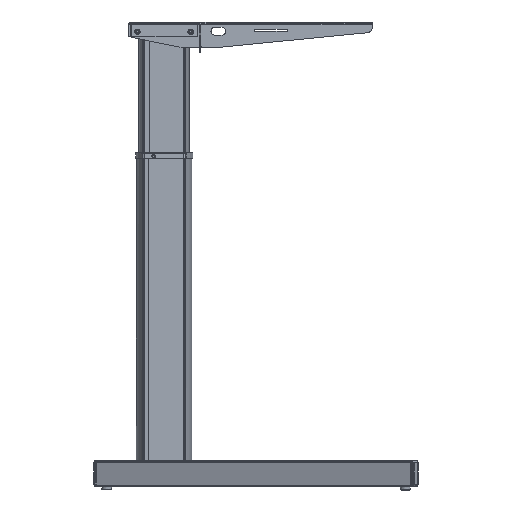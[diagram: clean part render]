
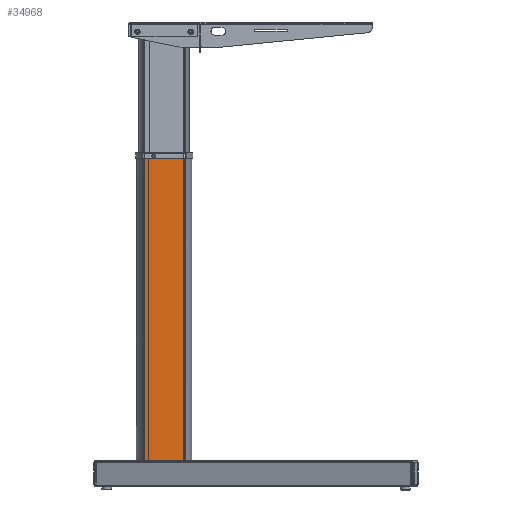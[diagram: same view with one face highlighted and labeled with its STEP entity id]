
A CAD part, left-side view. The second image highlights one B-rep face of the part: STEP entity #34968.
In plain terms, the highlighted planar face has unit normal (-1, 0, 0).
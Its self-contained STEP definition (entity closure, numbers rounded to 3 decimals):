
#86 = CARTESIAN_POINT ( 'NONE',  ( -70., 39., 0. ) ) ;
#1138 = LINE ( 'NONE', #13487, #41969 ) ;
#1219 = VERTEX_POINT ( 'NONE', #23875 ) ;
#1362 = CARTESIAN_POINT ( 'NONE',  ( -70., 12.4, 4.1 ) ) ;
#2304 = VECTOR ( 'NONE', #34688, 1000. ) ;
#3018 = DIRECTION ( 'NONE',  ( 0., -1., 0. ) ) ;
#3635 = CARTESIAN_POINT ( 'NONE',  ( -70., 20.312, 638. ) ) ;
#3741 = EDGE_CURVE ( 'NONE', #4993, #4108, #11593, .T. ) ;
#3822 = DIRECTION ( 'NONE',  ( 1., 0., 0. ) ) ;
#3863 = LINE ( 'NONE', #8696, #47137 ) ;
#4108 = VERTEX_POINT ( 'NONE', #46248 ) ;
#4154 = VECTOR ( 'NONE', #46967, 1000. ) ;
#4287 = VERTEX_POINT ( 'NONE', #46603 ) ;
#4993 = VERTEX_POINT ( 'NONE', #50741 ) ;
#5852 = VERTEX_POINT ( 'NONE', #17886 ) ;
#6161 = FACE_OUTER_BOUND ( 'NONE', #29778, .T. ) ;
#7282 = EDGE_CURVE ( 'NONE', #11539, #1219, #3863, .T. ) ;
#7371 = VECTOR ( 'NONE', #37389, 1000. ) ;
#7904 = CARTESIAN_POINT ( 'NONE',  ( -70., -12.4, 0. ) ) ;
#8289 = DIRECTION ( 'NONE',  ( 0., 0., -1. ) ) ;
#8696 = CARTESIAN_POINT ( 'NONE',  ( -70., -12.4, 4.1 ) ) ;
#10051 = ORIENTED_EDGE ( 'NONE', *, *, #40882, .F. ) ;
#10354 = CARTESIAN_POINT ( 'NONE',  ( -70., -38.327, 0. ) ) ;
#11126 = PLANE ( 'NONE',  #45023 ) ;
#11331 = LINE ( 'NONE', #48445, #45974 ) ;
#11539 = VERTEX_POINT ( 'NONE', #17972 ) ;
#11593 = LINE ( 'NONE', #23173, #4154 ) ;
#12669 = EDGE_CURVE ( 'NONE', #27997, #20962, #13638, .T. ) ;
#13487 = CARTESIAN_POINT ( 'NONE',  ( -70., 12.4, 644. ) ) ;
#13497 = ORIENTED_EDGE ( 'NONE', *, *, #29034, .T. ) ;
#13638 = LINE ( 'NONE', #41525, #35912 ) ;
#13829 = DIRECTION ( 'NONE',  ( 0., 0., -1. ) ) ;
#13959 = ORIENTED_EDGE ( 'NONE', *, *, #41662, .T. ) ;
#15025 = LINE ( 'NONE', #35030, #34822 ) ;
#15466 = CARTESIAN_POINT ( 'NONE',  ( -70., -39., 4.1 ) ) ;
#15692 = ORIENTED_EDGE ( 'NONE', *, *, #37110, .T. ) ;
#16073 = LINE ( 'NONE', #21520, #7371 ) ;
#16623 = LINE ( 'NONE', #31635, #25917 ) ;
#17003 = ORIENTED_EDGE ( 'NONE', *, *, #7282, .F. ) ;
#17886 = CARTESIAN_POINT ( 'NONE',  ( -70., 20.312, 634.25 ) ) ;
#17972 = CARTESIAN_POINT ( 'NONE',  ( -70., -27.6, 4.1 ) ) ;
#18520 = FACE_BOUND ( 'NONE', #50935, .T. ) ;
#19756 = ORIENTED_EDGE ( 'NONE', *, *, #32143, .T. ) ;
#20578 = ORIENTED_EDGE ( 'NONE', *, *, #21163, .F. ) ;
#20594 = LINE ( 'NONE', #34154, #32415 ) ;
#20962 = VERTEX_POINT ( 'NONE', #7904 ) ;
#21163 = EDGE_CURVE ( 'NONE', #4108, #41435, #36252, .T. ) ;
#21520 = CARTESIAN_POINT ( 'NONE',  ( -70., -12.4, 4.1 ) ) ;
#21673 = VERTEX_POINT ( 'NONE', #86 ) ;
#22681 = VECTOR ( 'NONE', #41385, 1000. ) ;
#22780 = CARTESIAN_POINT ( 'NONE',  ( -70., -39., 0. ) ) ;
#23173 = CARTESIAN_POINT ( 'NONE',  ( -70., -39., 644. ) ) ;
#23875 = CARTESIAN_POINT ( 'NONE',  ( -70., -12.4, 4.1 ) ) ;
#24413 = ORIENTED_EDGE ( 'NONE', *, *, #12669, .T. ) ;
#24627 = LINE ( 'NONE', #15466, #46262 ) ;
#25613 = ORIENTED_EDGE ( 'NONE', *, *, #31459, .F. ) ;
#25917 = VECTOR ( 'NONE', #43551, 1000. ) ;
#27046 = CARTESIAN_POINT ( 'NONE',  ( -70., 27.6, 4.1 ) ) ;
#27451 = DIRECTION ( 'NONE',  ( 0., 0., -1. ) ) ;
#27738 = DIRECTION ( 'NONE',  ( 0., 0., -1. ) ) ;
#27997 = VERTEX_POINT ( 'NONE', #46862 ) ;
#28293 = EDGE_CURVE ( 'NONE', #39027, #27997, #1138, .T. ) ;
#28998 = VERTEX_POINT ( 'NONE', #30584 ) ;
#29034 = EDGE_CURVE ( 'NONE', #4287, #41435, #48094, .T. ) ;
#29644 = VERTEX_POINT ( 'NONE', #27046 ) ;
#29778 = EDGE_LOOP ( 'NONE', ( #25613, #43766, #48753, #24413, #10051, #17003, #47210, #13497, #20578, #40793, #19756, #13959 ) ) ;
#30584 = CARTESIAN_POINT ( 'NONE',  ( -70., 27.6, 0. ) ) ;
#30722 = DIRECTION ( 'NONE',  ( 0., 0., -1. ) ) ;
#31215 = CARTESIAN_POINT ( 'NONE',  ( -70., -39., 644. ) ) ;
#31459 = EDGE_CURVE ( 'NONE', #29644, #28998, #15025, .T. ) ;
#31535 = EDGE_CURVE ( 'NONE', #11539, #4287, #20594, .T. ) ;
#31635 = CARTESIAN_POINT ( 'NONE',  ( -70., -39., 0. ) ) ;
#32143 = EDGE_CURVE ( 'NONE', #4993, #21673, #11331, .T. ) ;
#32415 = VECTOR ( 'NONE', #30722, 1000. ) ;
#34154 = CARTESIAN_POINT ( 'NONE',  ( -70., -27.6, 4.1 ) ) ;
#34688 = DIRECTION ( 'NONE',  ( 0., -1., 0. ) ) ;
#34822 = VECTOR ( 'NONE', #27451, 1000. ) ;
#34968 = ADVANCED_FACE ( 'NONE', ( #18520, #6161 ), #11126, .F. ) ;
#35030 = CARTESIAN_POINT ( 'NONE',  ( -70., 27.6, 644. ) ) ;
#35912 = VECTOR ( 'NONE', #49486, 1000. ) ;
#36252 = LINE ( 'NONE', #49365, #22681 ) ;
#37110 = EDGE_CURVE ( 'NONE', #5852, #5852, #40616, .T. ) ;
#37389 = DIRECTION ( 'NONE',  ( 0., 0., -1. ) ) ;
#39027 = VERTEX_POINT ( 'NONE', #1362 ) ;
#40616 = CIRCLE ( 'NONE', #47009, 3.75 ) ;
#40644 = DIRECTION ( 'NONE',  ( 0., 0., -1. ) ) ;
#40793 = ORIENTED_EDGE ( 'NONE', *, *, #3741, .F. ) ;
#40882 = EDGE_CURVE ( 'NONE', #1219, #20962, #16073, .T. ) ;
#41385 = DIRECTION ( 'NONE',  ( 0., 0., -1. ) ) ;
#41435 = VERTEX_POINT ( 'NONE', #10354 ) ;
#41525 = CARTESIAN_POINT ( 'NONE',  ( -70., -39., 0. ) ) ;
#41662 = EDGE_CURVE ( 'NONE', #21673, #28998, #16623, .T. ) ;
#41969 = VECTOR ( 'NONE', #13829, 1000. ) ;
#42197 = EDGE_CURVE ( 'NONE', #29644, #39027, #24627, .T. ) ;
#43551 = DIRECTION ( 'NONE',  ( 0., -1., 0. ) ) ;
#43766 = ORIENTED_EDGE ( 'NONE', *, *, #42197, .T. ) ;
#43787 = DIRECTION ( 'NONE',  ( 1., 0., 0. ) ) ;
#45023 = AXIS2_PLACEMENT_3D ( 'NONE', #31215, #43787, #27738 ) ;
#45974 = VECTOR ( 'NONE', #40644, 1000. ) ;
#46248 = CARTESIAN_POINT ( 'NONE',  ( -70., -38.327, 644. ) ) ;
#46262 = VECTOR ( 'NONE', #3018, 1000. ) ;
#46603 = CARTESIAN_POINT ( 'NONE',  ( -70., -27.6, 0. ) ) ;
#46862 = CARTESIAN_POINT ( 'NONE',  ( -70., 12.4, 0. ) ) ;
#46967 = DIRECTION ( 'NONE',  ( 0., -1., 0. ) ) ;
#47009 = AXIS2_PLACEMENT_3D ( 'NONE', #3635, #3822, #8289 ) ;
#47137 = VECTOR ( 'NONE', #48801, 1000. ) ;
#47210 = ORIENTED_EDGE ( 'NONE', *, *, #31535, .T. ) ;
#48094 = LINE ( 'NONE', #22780, #2304 ) ;
#48445 = CARTESIAN_POINT ( 'NONE',  ( -70., 39., 644. ) ) ;
#48753 = ORIENTED_EDGE ( 'NONE', *, *, #28293, .T. ) ;
#48801 = DIRECTION ( 'NONE',  ( 0., 1., 0. ) ) ;
#49365 = CARTESIAN_POINT ( 'NONE',  ( -70., -38.327, 644. ) ) ;
#49486 = DIRECTION ( 'NONE',  ( 0., -1., 0. ) ) ;
#50741 = CARTESIAN_POINT ( 'NONE',  ( -70., 39., 644. ) ) ;
#50935 = EDGE_LOOP ( 'NONE', ( #15692 ) ) ;
